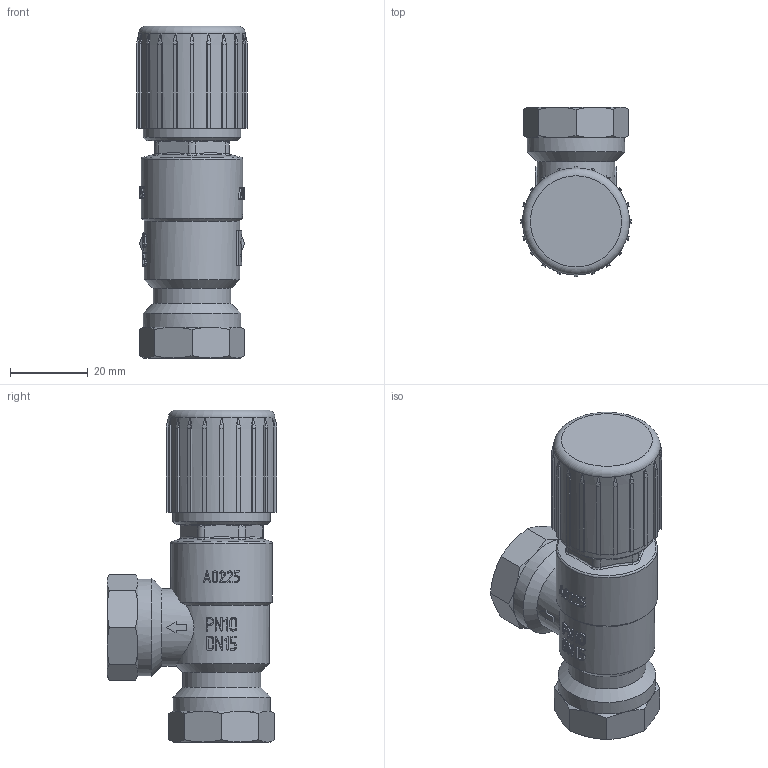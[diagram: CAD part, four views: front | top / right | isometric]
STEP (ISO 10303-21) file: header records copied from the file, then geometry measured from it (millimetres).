
FILE_DESCRIPTION(('STEP AP242'), '1');
FILE_NAME('VT.665.N.0401', '', ('UNSPECIFIED'), ('UNSPECIFIED'), 'C3D Converter', 'C3D Toolkit', '');
FILE_SCHEMA(('AP242_MANAGED_MODEL_BASED_3D_ENGINEERING_MIM_LF { 1 0 10303 442 1 1 4 }'));
Length unit declared in the file: millimetre
Products named in the file (15): ВР.493612.011.000 СБ; ВР.493619.002.000; ВР.753191.001; ВР.713161.001; ВР.712221.001; ВР.493619.002.001; ВР.753157.001; ВР.493619.002.002; ВР.716623.001; ВР.753512.018
Assembly tree (15 placements, depth 4):
  ВР.493612.011.000 СБ
    (unnamed)
    ВР.493619.002.000
      ВР.753191.001
      ВР.713161.001
      ВР.712221.001
      (unnamed)
      ВР.493619.002.001
        ВР.753157.001
        (unnamed)
        (unnamed)
        (unnamed)
      ВР.493619.002.002
        ВР.716623.001
        (unnamed)
      ВР.753512.018
Bounding box: 28.4 x 43.6 x 85.2 mm (x, y, z)
Volume: 43053.7 mm3; surface area: 16457.8 mm2
Topology: 1 solids, 1 shells, 1215 faces, 3640 edges, 2407 vertices
Faces by surface type: plane 714, extrusion 296, cylinder 112, cone 47, bspline 24, torus 22
Full cylindrical faces by diameter (mm): 15 x2, 18.632 x2, 20 x2, 25 x3, 25.2 x1, 26 x1, 27.4 x1
Entity records: 58066 total; most frequent: CARTESIAN_POINT 27042, ORIENTED_EDGE 7136, DIRECTION 4929, EDGE_CURVE 3568, VERTEX_POINT 2362, VECTOR 1963, LINE 1667, AXIS2_PLACEMENT_3D 1483
